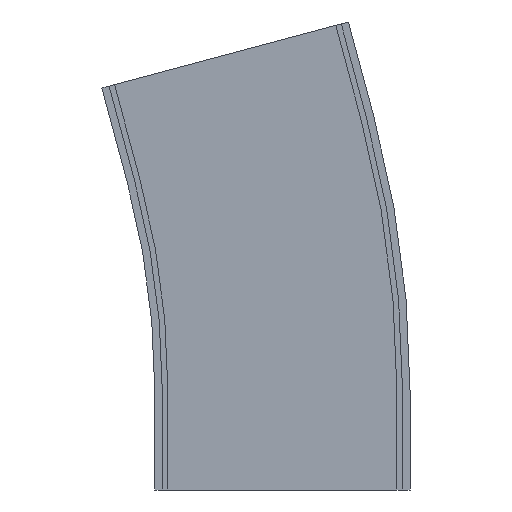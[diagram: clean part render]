
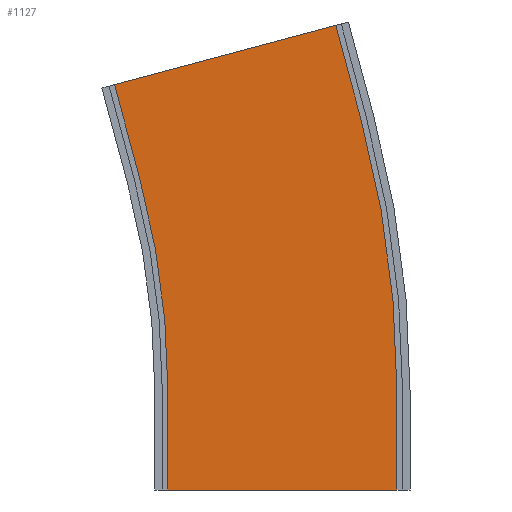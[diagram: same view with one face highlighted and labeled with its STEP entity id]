
A CAD part, left-side view. The second image highlights one B-rep face of the part: STEP entity #1127.
In plain terms, the highlighted planar face has unit normal (-1, 0, 0).
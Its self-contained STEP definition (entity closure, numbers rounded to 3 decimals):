
#6 = AXIS2_PLACEMENT_3D ( 'NONE', #289, #1377, #615 ) ;
#29 = EDGE_CURVE ( 'NONE', #250, #114, #843, .T. ) ;
#33 = CIRCLE ( 'NONE', #6, 438.75 ) ;
#66 = DIRECTION ( 'NONE',  ( 0., 0., 1. ) ) ;
#95 = EDGE_CURVE ( 'NONE', #1002, #663, #770, .T. ) ;
#104 = DIRECTION ( 'NONE',  ( 0., 0.259, 0.966 ) ) ;
#114 = VERTEX_POINT ( 'NONE', #428 ) ;
#138 = DIRECTION ( 'NONE',  ( 1., 0., 0. ) ) ;
#142 = VERTEX_POINT ( 'NONE', #220 ) ;
#177 = VECTOR ( 'NONE', #104, 1000. ) ;
#183 = CARTESIAN_POINT ( 'NONE',  ( -211.5, 500., 52.5 ) ) ;
#207 = CIRCLE ( 'NONE', #1138, 561.25 ) ;
#220 = CARTESIAN_POINT ( 'NONE',  ( -211.5, 76.2, 166.057 ) ) ;
#238 = PLANE ( 'NONE',  #1263 ) ;
#247 = CARTESIAN_POINT ( 'NONE',  ( -211.5, -42.126, 197.762 ) ) ;
#250 = VERTEX_POINT ( 'NONE', #1338 ) ;
#289 = CARTESIAN_POINT ( 'NONE',  ( -211.5, 500., 52.5 ) ) ;
#314 = LINE ( 'NONE', #1342, #818 ) ;
#391 = DIRECTION ( 'NONE',  ( -1., 0., 0. ) ) ;
#399 = DIRECTION ( 'NONE',  ( 0., 0., -1. ) ) ;
#420 = EDGE_CURVE ( 'NONE', #589, #663, #1213, .T. ) ;
#428 = CARTESIAN_POINT ( 'NONE',  ( -211.5, 61.25, 0. ) ) ;
#460 = DIRECTION ( 'NONE',  ( 0., 1., 0. ) ) ;
#476 = EDGE_CURVE ( 'NONE', #114, #1274, #915, .T. ) ;
#512 = ORIENTED_EDGE ( 'NONE', *, *, #95, .F. ) ;
#523 = ORIENTED_EDGE ( 'NONE', *, *, #1317, .F. ) ;
#574 = VECTOR ( 'NONE', #1161, 1000. ) ;
#589 = VERTEX_POINT ( 'NONE', #247 ) ;
#615 = DIRECTION ( 'NONE',  ( 0., 0., 1. ) ) ;
#620 = VERTEX_POINT ( 'NONE', #1238 ) ;
#633 = CARTESIAN_POINT ( 'NONE',  ( -211.5, -61.25, 0. ) ) ;
#657 = FACE_OUTER_BOUND ( 'NONE', #1038, .T. ) ;
#663 = VERTEX_POINT ( 'NONE', #1352 ) ;
#728 = ORIENTED_EDGE ( 'NONE', *, *, #873, .F. ) ;
#754 = VECTOR ( 'NONE', #399, 1000. ) ;
#760 = DIRECTION ( 'NONE',  ( 0., -0.966, 0.259 ) ) ;
#770 = LINE ( 'NONE', #942, #1313 ) ;
#776 = CARTESIAN_POINT ( 'NONE',  ( -211.5, -61.25, 52.5 ) ) ;
#788 = CARTESIAN_POINT ( 'NONE',  ( -211.5, 76.2, 166.057 ) ) ;
#803 = ORIENTED_EDGE ( 'NONE', *, *, #420, .T. ) ;
#818 = VECTOR ( 'NONE', #1019, 1000. ) ;
#842 = EDGE_CURVE ( 'NONE', #142, #1002, #1373, .T. ) ;
#843 = LINE ( 'NONE', #1385, #754 ) ;
#873 = EDGE_CURVE ( 'NONE', #620, #1274, #314, .T. ) ;
#896 = DIRECTION ( 'NONE',  ( 0., 0.259, 0.966 ) ) ;
#915 = LINE ( 'NONE', #633, #574 ) ;
#942 = CARTESIAN_POINT ( 'NONE',  ( -211.5, -28.538, 248.473 ) ) ;
#997 = ORIENTED_EDGE ( 'NONE', *, *, #842, .F. ) ;
#1002 = VERTEX_POINT ( 'NONE', #1410 ) ;
#1019 = DIRECTION ( 'NONE',  ( 0., 0., -1. ) ) ;
#1038 = EDGE_LOOP ( 'NONE', ( #1372, #728, #1310, #803, #512, #997, #523, #1105 ) ) ;
#1105 = ORIENTED_EDGE ( 'NONE', *, *, #29, .T. ) ;
#1127 = ADVANCED_FACE ( 'NONE', ( #657 ), #238, .F. ) ;
#1138 = AXIS2_PLACEMENT_3D ( 'NONE', #183, #391, #66 ) ;
#1161 = DIRECTION ( 'NONE',  ( 0., -1., 0. ) ) ;
#1173 = CARTESIAN_POINT ( 'NONE',  ( -211.5, -42.126, 197.762 ) ) ;
#1213 = LINE ( 'NONE', #1173, #177 ) ;
#1238 = CARTESIAN_POINT ( 'NONE',  ( -211.5, -61.25, 52.5 ) ) ;
#1263 = AXIS2_PLACEMENT_3D ( 'NONE', #776, #138, #460 ) ;
#1274 = VERTEX_POINT ( 'NONE', #1332 ) ;
#1286 = VECTOR ( 'NONE', #896, 1000. ) ;
#1310 = ORIENTED_EDGE ( 'NONE', *, *, #1393, .T. ) ;
#1313 = VECTOR ( 'NONE', #760, 1000. ) ;
#1317 = EDGE_CURVE ( 'NONE', #250, #142, #33, .T. ) ;
#1332 = CARTESIAN_POINT ( 'NONE',  ( -211.5, -61.25, 0. ) ) ;
#1338 = CARTESIAN_POINT ( 'NONE',  ( -211.5, 61.25, 52.5 ) ) ;
#1342 = CARTESIAN_POINT ( 'NONE',  ( -211.5, -61.25, 52.5 ) ) ;
#1352 = CARTESIAN_POINT ( 'NONE',  ( -211.5, -28.538, 248.473 ) ) ;
#1372 = ORIENTED_EDGE ( 'NONE', *, *, #476, .T. ) ;
#1373 = LINE ( 'NONE', #788, #1286 ) ;
#1377 = DIRECTION ( 'NONE',  ( -1., 0., 0. ) ) ;
#1385 = CARTESIAN_POINT ( 'NONE',  ( -211.5, 61.25, 52.5 ) ) ;
#1393 = EDGE_CURVE ( 'NONE', #620, #589, #207, .T. ) ;
#1410 = CARTESIAN_POINT ( 'NONE',  ( -211.5, 89.788, 216.768 ) ) ;
